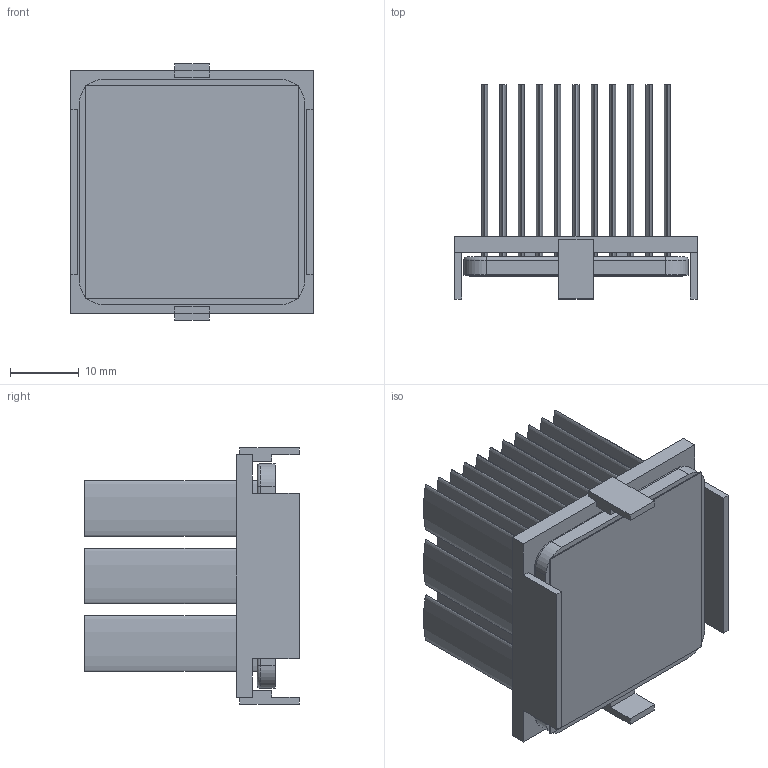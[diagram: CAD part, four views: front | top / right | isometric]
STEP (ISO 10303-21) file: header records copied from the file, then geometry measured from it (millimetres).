
FILE_DESCRIPTION (( 'STEP AP214' ), '1' );
FILE_NAME ('INM33001-28W-2.6Y.STEP', '2023-02-20T19:09:40', ( '' ), ( '' ), 'SwSTEP 2.0', 'SolidWorks 2020', '' );
FILE_SCHEMA (( 'AUTOMOTIVE_DESIGN' ));
Length unit declared in the file: inch
Products named in the file (1): INM33001-28W-2.6Y
Bounding box: 35.2 x 31.1 x 37.2 mm (x, y, z)
Volume: 9620.4 mm3; surface area: 20427.1 mm2
Topology: 3 solids, 3 shells, 181 faces, 418 edges, 276 vertices
Faces by surface type: plane 103, bspline 66, cylinder 8, torus 4
Entity records: 7645 total; most frequent: CARTESIAN_POINT 1734, ORIENTED_EDGE 836, DIRECTION 538, EDGE_CURVE 418, VERTEX_POINT 276, LINE 266, VECTOR 266, EDGE_LOOP 216
